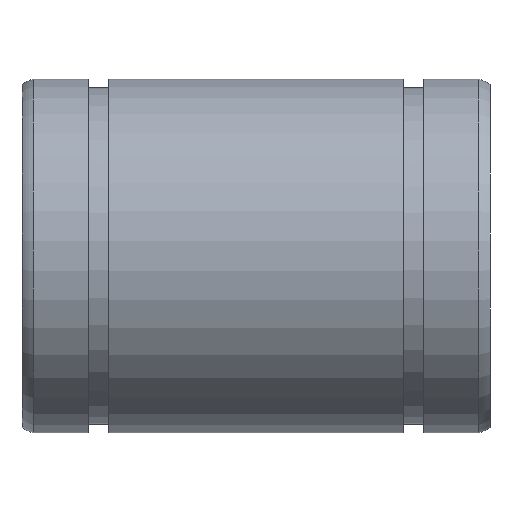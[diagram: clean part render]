
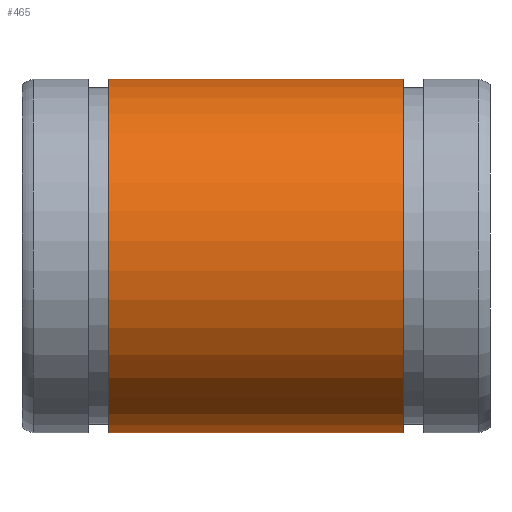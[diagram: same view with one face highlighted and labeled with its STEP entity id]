
A CAD part, top view. The second image highlights one B-rep face of the part: STEP entity #465.
In plain terms, the highlighted cylindrical face has radius 14 mm (diameter 28 mm), a partial arc.
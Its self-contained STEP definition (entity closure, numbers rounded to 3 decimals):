
#87=CARTESIAN_POINT('',(6.85,8.857,-10.842));
#88=VERTEX_POINT('',#87);
#95=CARTESIAN_POINT('',(30.15,8.857,-10.842));
#96=VERTEX_POINT('',#95);
#97=CARTESIAN_POINT('',(30.15,8.857,-10.842));
#98=DIRECTION('',(-1.0,0.0,0.0));
#99=VECTOR('',#98,23.3);
#100=LINE('',#97,#99);
#101=EDGE_CURVE('',#96,#88,#100,.T.);
#321=CARTESIAN_POINT('',(30.15,-8.857,-10.842));
#322=VERTEX_POINT('',#321);
#329=CARTESIAN_POINT('',(6.85,-8.857,-10.842));
#330=VERTEX_POINT('',#329);
#331=CARTESIAN_POINT('',(6.85,-8.857,-10.842));
#332=DIRECTION('',(1.0,0.0,0.0));
#333=VECTOR('',#332,23.3);
#334=LINE('',#331,#333);
#335=EDGE_CURVE('',#330,#322,#334,.T.);
#436=CARTESIAN_POINT('',(6.85,0.0,0.));
#437=DIRECTION('',(-1.0,0.0,0.0));
#438=DIRECTION('',(0.0,0.0,1.0));
#439=AXIS2_PLACEMENT_3D('',#436,#437,#438);
#440=CIRCLE('',#439,14.);
#441=EDGE_CURVE('',#330,#88,#440,.T.);
#448=CARTESIAN_POINT('',(18.5,0.0,0.));
#449=DIRECTION('',(-1.0,0.0,0.0));
#450=DIRECTION('',(0.0,0.0,1.0));
#451=AXIS2_PLACEMENT_3D('',#448,#449,#450);
#452=CYLINDRICAL_SURFACE('',#451,14.);
#453=ORIENTED_EDGE('',*,*,#335,.T.);
#454=CARTESIAN_POINT('',(30.15,0.0,0.));
#455=DIRECTION('',(-1.0,0.0,0.0));
#456=DIRECTION('',(0.0,0.0,1.0));
#457=AXIS2_PLACEMENT_3D('',#454,#455,#456);
#458=CIRCLE('',#457,14.);
#459=EDGE_CURVE('',#322,#96,#458,.T.);
#460=ORIENTED_EDGE('',*,*,#459,.T.);
#461=ORIENTED_EDGE('',*,*,#101,.T.);
#462=ORIENTED_EDGE('',*,*,#441,.F.);
#463=EDGE_LOOP('',(#453,#460,#461,#462));
#464=FACE_OUTER_BOUND('',#463,.T.);
#465=ADVANCED_FACE('',(#464),#452,.T.);
